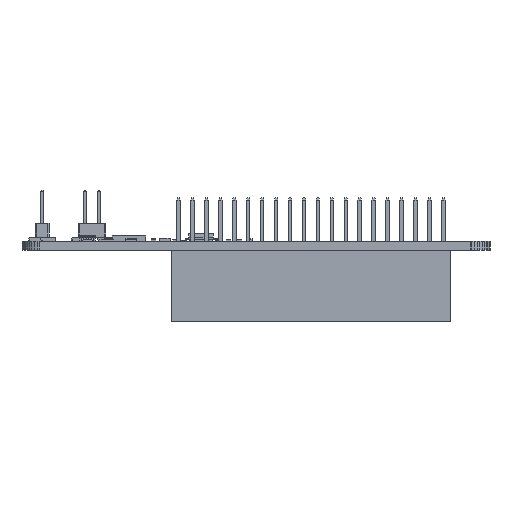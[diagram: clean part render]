
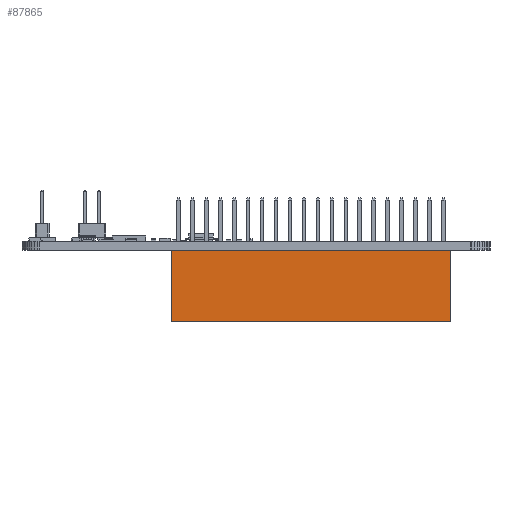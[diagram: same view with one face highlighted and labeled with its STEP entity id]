
A CAD part, front view. The second image highlights one B-rep face of the part: STEP entity #87865.
In plain terms, the highlighted planar face has unit normal (0, -1, 0) as drawn and (0, 0, 1) by its records, which use the part's own axes.
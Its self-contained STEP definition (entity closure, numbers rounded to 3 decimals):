
#70869=DIRECTION('',(-1.,0.,0.));
#70870=VECTOR('',#70869,50.86);
#70871=CARTESIAN_POINT('',(25.43,2.5,2.54));
#70872=LINE('',#70871,#70870);
#70876=DIRECTION('',(0.,1.,0.));
#70877=VECTOR('',#70876,13.);
#70878=CARTESIAN_POINT('',(-25.43,2.5,2.54));
#70879=LINE('',#70878,#70877);
#70883=DIRECTION('',(1.,0.,0.));
#70884=VECTOR('',#70883,50.86);
#70885=CARTESIAN_POINT('',(-25.43,15.5,2.54));
#70886=LINE('',#70885,#70884);
#70946=DIRECTION('',(0.,1.,0.));
#70947=VECTOR('',#70946,13.);
#70948=CARTESIAN_POINT('',(25.43,2.5,2.54));
#70949=LINE('',#70948,#70947);
#83476=CARTESIAN_POINT('',(25.43,2.5,2.54));
#83478=VERTEX_POINT('',#83476);
#83480=CARTESIAN_POINT('',(25.43,15.5,2.54));
#83481=VERTEX_POINT('',#83480);
#85925=CARTESIAN_POINT('',(-25.43,2.5,2.54));
#85927=VERTEX_POINT('',#85925);
#85930=CARTESIAN_POINT('',(-25.43,15.5,2.54));
#85931=VERTEX_POINT('',#85930);
#87852=CARTESIAN_POINT('',(22.83,2.5,2.54));
#87853=DIRECTION('',(0.,0.,1.));
#87854=DIRECTION('',(1.,0.,0.));
#87855=AXIS2_PLACEMENT_3D('',#87852,#87853,#87854);
#87856=PLANE('',#87855);
#87857=ORIENTED_EDGE('',*,*,#86760,.T.);
#87859=ORIENTED_EDGE('',*,*,#87858,.T.);
#87860=ORIENTED_EDGE('',*,*,#87802,.T.);
#87862=ORIENTED_EDGE('',*,*,#87861,.F.);
#87863=EDGE_LOOP('',(#87857,#87859,#87860,#87862));
#87864=FACE_OUTER_BOUND('',#87863,.F.);
#87865=ADVANCED_FACE('',(#87864),#87856,.T.);
#86760=EDGE_CURVE('',#83478,#85927,#70872,.T.);
#87802=EDGE_CURVE('',#85931,#83481,#70886,.T.);
#87858=EDGE_CURVE('',#85927,#85931,#70879,.T.);
#87861=EDGE_CURVE('',#83478,#83481,#70949,.T.);
